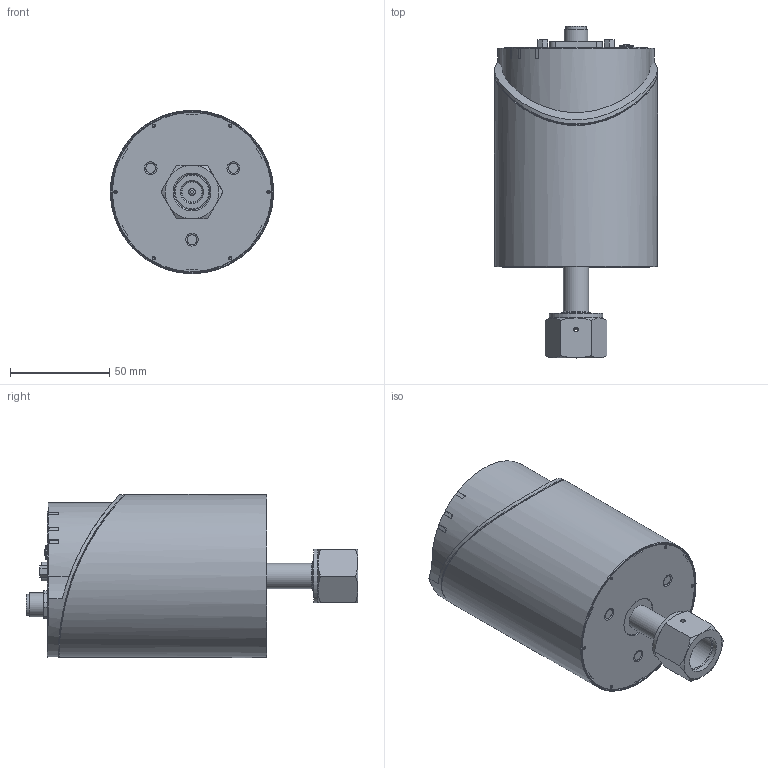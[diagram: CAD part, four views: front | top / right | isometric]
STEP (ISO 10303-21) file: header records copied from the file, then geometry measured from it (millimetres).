
FILE_DESCRIPTION(/* description */ (''),/* implementation_level */ '2;1');
FILE_NAME(/* name */ 'M:\Lehrlinge\09_Jeremy Studer\Step-dateien generieren\STEP\MCDG045D_8VCR_D-Net.stp',/* time_stamp */ '2017-03-20T15:32:50+01:00',/* author */ ('STUJ'),/* organization */ (''),/* preprocessor_version */ 'ST-DEVELOPER v16.1',/* originating_system */ 'Autodesk Inventor 2016',/* authorisation */ '');
FILE_SCHEMA (('AUTOMOTIVE_DESIGN { 1 0 10303 214 3 1 1 }'));
Length unit declared in the file: millimetre
Products named in the file (1): Bauteil4
Bounding box: 82 x 166.97 x 82 mm (x, y, z)
Volume: 577881.2 mm3; surface area: 59595.4 mm2
Topology: 1 solids, 6 shells, 655 faces, 1672 edges, 1054 vertices
Faces by surface type: plane 299, cylinder 232, bspline 39, sphere 32, torus 27, cone 26
Full cylindrical faces by diameter (mm): 1 x20, 1.5 x2, 2.156 x2, 2.286 x2, 2.5 x1, 2.8 x2, 2.845 x2, 2.9 x2, 3 x3, 3.2 x4, 3.4 x4, 4.5 x1, 7 x1, 8.3 x1, 9.4 x1, 9.5 x1, 10.16 x1, 10.5 x1, 12 x1, 12.1 x1, 12.2 x1, 12.7 x1, 14.46 x1, 15.494 x1, 17.78 x1, 19.05 x1, 26.988 x1, 82 x2
Entity records: 21009 total; most frequent: CARTESIAN_POINT 5284, DIRECTION 3078, ORIENTED_EDGE 2996, EDGE_CURVE 1491, AXIS2_PLACEMENT_3D 1145, VERTEX_POINT 992, EDGE_LOOP 840, LINE 788
